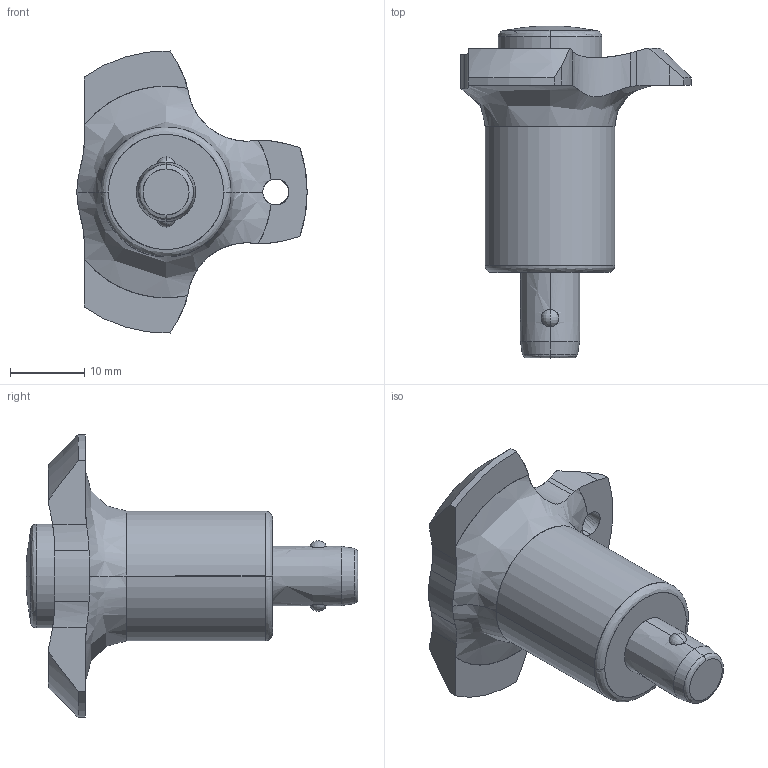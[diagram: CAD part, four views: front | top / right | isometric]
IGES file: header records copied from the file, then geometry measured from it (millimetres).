
Start section: SolidWorks IGES file using analytic representation for surfaces
Global section: file name: C:\Users\ianosborn\Desktop\33180_v2\33180_v2_20250106_IGES\33180.W0020.igs; native system: SolidWorks 2019; preprocessor: SolidWorks 2019; author: IanOsborn; date: 250106.111451; units: millimetre
Bounding box: 31 x 44.7 x 37.98 mm (x, y, z)
Surface area: 6057 mm2 (no closed solid volume)
Topology: 0 solids, 0 shells, 68 faces, 971 edges, 970 vertices
Faces by surface type: revolution 40, bspline 28
